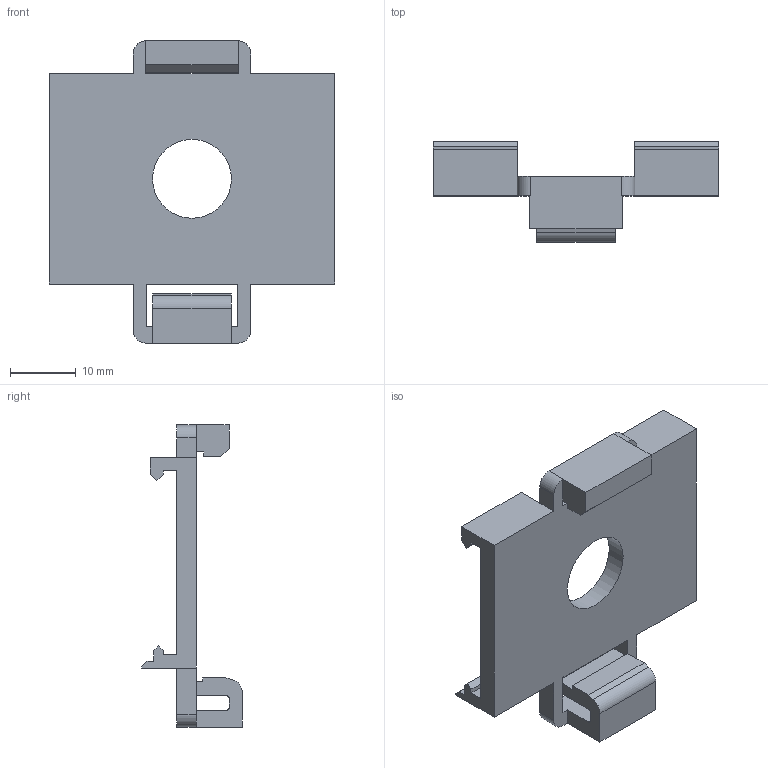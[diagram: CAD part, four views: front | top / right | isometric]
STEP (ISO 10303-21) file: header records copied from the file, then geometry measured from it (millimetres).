
FILE_DESCRIPTION (( 'STEP AP214' ), '1' );
FILE_NAME ('Schnappbefestigung_W20_W35.STEP', '2016-01-18T11:51:12', ( 'User' ), ( 'Bender' ), 'SwSTEP 2.0', 'SolidWorks 2015', '' );
FILE_SCHEMA (( 'AUTOMOTIVE_DESIGN' ));
Length unit declared in the file: millimetre
Products named in the file (1): Schnappbefestigung_W20_W35
Bounding box: 43.5 x 15.3 x 46 mm (x, y, z)
Volume: 5615.6 mm3; surface area: 5058.7 mm2
Topology: 1 solids, 1 shells, 78 faces, 226 edges, 148 vertices
Faces by surface type: plane 70, cylinder 8
Full cylindrical faces by diameter (mm): 12 x1
Entity records: 2565 total; most frequent: CARTESIAN_POINT 452, ORIENTED_EDGE 450, DIRECTION 401, EDGE_CURVE 225, VECTOR 207, LINE 207, VERTEX_POINT 148, AXIS2_PLACEMENT_3D 97
